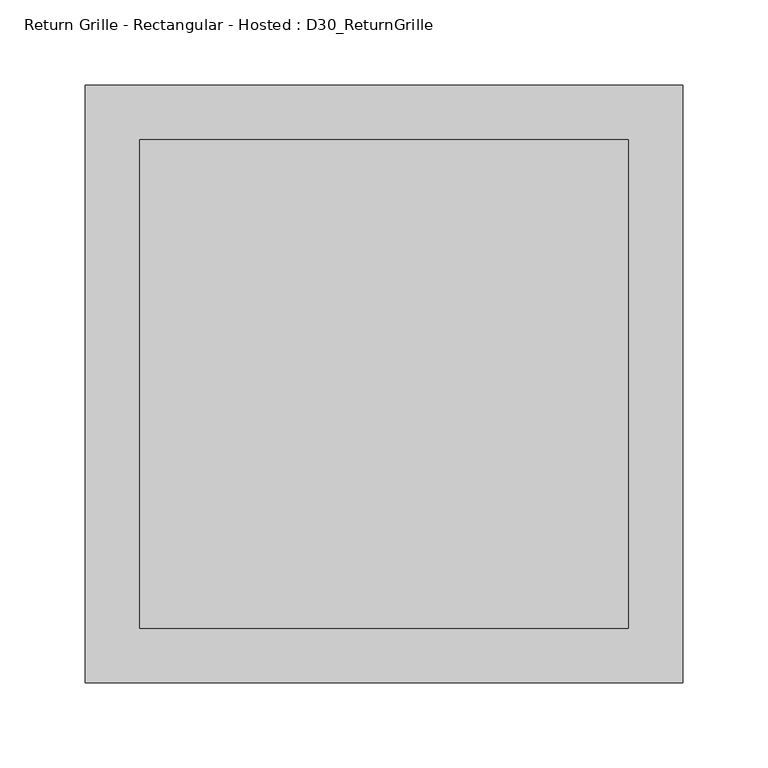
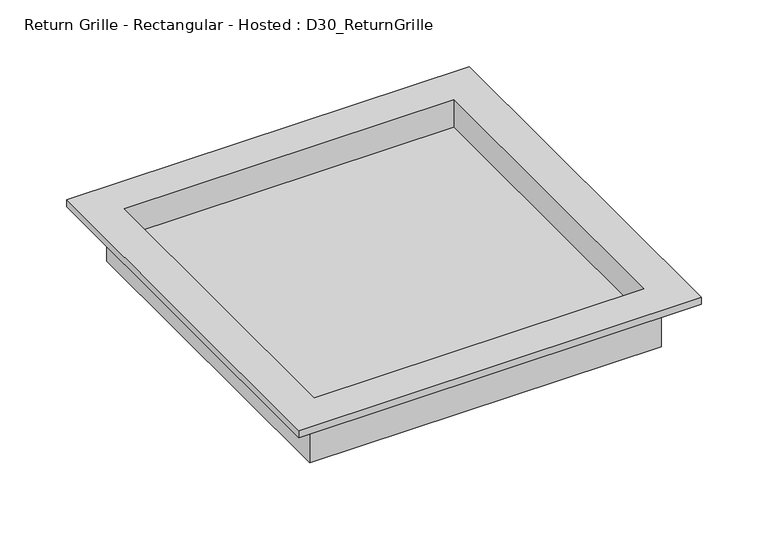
"""IFC4 building model written with IfcOpenShell, lengths in millimetres: air terminal geometry, Return Grille - Rectangular - Hosted : D30_ReturnGrille."""

from ifc_helpers import new_model, si_unit, origin, place, context, project, spatial, faceted_brep, source, transform, mapped, element, save


def return_grille_rectangular_hosted_d30_returngrille_5679211a(model_context):
    return source(origin(), model_context, "Body", "Brep", [
        faceted_brep([(174.625, 174.625, 6.35), (-174.625, 174.625, 6.35), (-174.625, -174.625, 6.35), (174.625, -174.625, 6.35), (-142.875, 142.875, 6.35), (142.875, 142.875, 6.35), (142.875, -142.875, 6.35), (-142.875, -142.875, 6.35), (174.625, 174.625, 0.0), (174.625, -174.625, 0.0), (-174.625, -174.625, 0.0), (-174.625, 174.625, 0.0), (152.4, 152.4, 0.0), (-152.4, 152.4, 0.0), (-152.4, -152.4, 0.0), (152.4, -152.4, 0.0), (152.4, 152.4, -44.45), (152.4, -152.4, -44.45), (-152.4, -152.4, -44.45), (-152.4, 152.4, -44.45), (142.875, 142.875, -19.05), (-142.875, 142.875, -19.05), (-142.875, -142.875, -19.05), (142.875, -142.875, -19.05)], [[[0, 1, 2, 3], [4, 5, 6, 7]], [[8, 9, 10, 11], [12, 13, 14, 15]], [[1, 0, 8, 11]], [[2, 1, 11, 10]], [[3, 2, 10, 9]], [[0, 3, 9, 8]], [[16, 17, 18, 19]], [[16, 19, 13, 12]], [[19, 18, 14, 13]], [[18, 17, 15, 14]], [[17, 16, 12, 15]], [[20, 21, 22, 23]], [[21, 20, 5, 4]], [[22, 21, 4, 7]], [[23, 22, 7, 6]], [[20, 23, 6, 5]]]),
    ])


if __name__ == "__main__":
    model = new_model("IFC4")
    model_context = context("Model", 3, world=origin())
    ifc_project = project(units=[si_unit("LENGTHUNIT", "METRE", prefix="MILLI")], contexts=[model_context])
    site = spatial("IfcSite", under=ifc_project)
    building = spatial("IfcBuilding", under=site)
    placement = place(None, origin())
    return_grille_rectangular_hosted_d30_returngrille_shape = return_grille_rectangular_hosted_d30_returngrille_5679211a(model_context)
    element("IfcAirTerminal", 1, ObjectType="Return Grille - Rectangular - Hosted : D30_ReturnGrille", at=placement, inside=building, context=model_context, shape_type="MappedRepresentation", body=[
        mapped(return_grille_rectangular_hosted_d30_returngrille_shape, transform((0.0, 0.0, 0.0), x_axis=(1.0, 0.0, 0.0), y_axis=(0.0, 1.0, 0.0), z_axis=(0.0, 0.0, 1.0))),
    ])
    save(model, "model.ifc")
